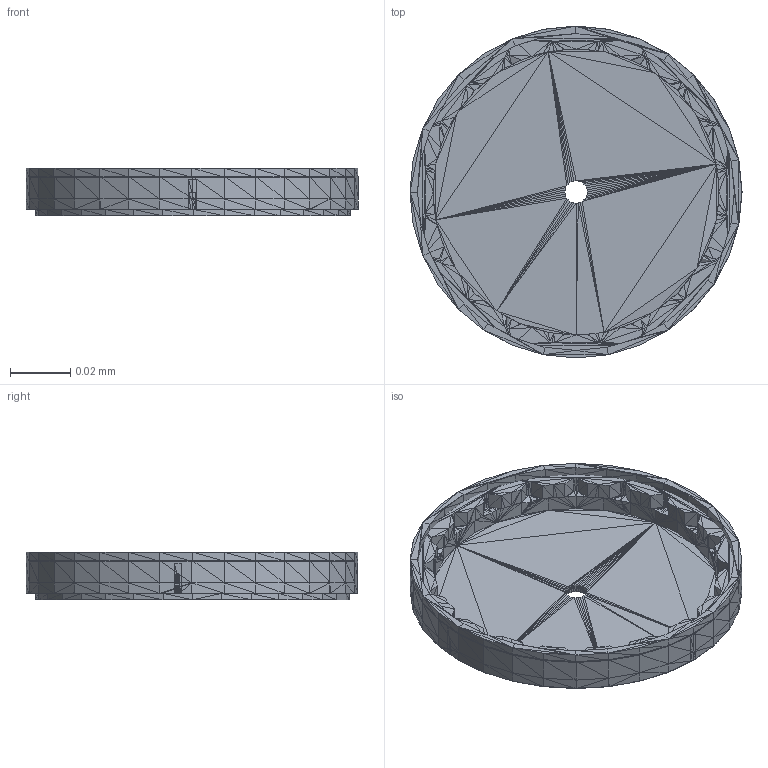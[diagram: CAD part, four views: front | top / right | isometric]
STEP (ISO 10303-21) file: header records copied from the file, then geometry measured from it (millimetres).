
FILE_DESCRIPTION((' Model'),'2;1');
FILE_NAME(' Shape Model','2026-05-29T17:25:29',(''),( ''),' ','','Unknown');
FILE_SCHEMA(('AUTOMOTIVE_DESIGN { 1 0 10303 214 1 1 1 1 }'));
Length unit declared in the file: millimetre
Products named in the file (12):  STEP translator 7.5 1;  STEP translator 7.5 1.1;  STEP translator 7.5 1.2;  STEP translator 7.5 1.3;  STEP translator 7.5 1.4;  STEP translator 7.5 1.5;  STEP translator 7.5 1.6;  STEP translator 7.5 1.7;  STEP translator 7.5 1.8;  STEP translator 7.5 1.9;  STEP translator 7.5 1.10;  STEP translator 7.5 1.11
Assembly tree (11 placements, depth 2):
   STEP translator 7.5 1
     STEP translator 7.5 1.1
     STEP translator 7.5 1.2
     STEP translator 7.5 1.3
     STEP translator 7.5 1.4
     STEP translator 7.5 1.5
     STEP translator 7.5 1.6
     STEP translator 7.5 1.7
     STEP translator 7.5 1.8
     STEP translator 7.5 1.9
     STEP translator 7.5 1.10
     STEP translator 7.5 1.11
Bounding box: 0.11 x 0.11 x 0.02 mm (x, y, z)
Surface area: 0 mm2 (no closed solid volume)
Topology: 0 solids, 11 shells, 2920 faces, 4431 edges, 1511 vertices
Faces by surface type: plane 2920
Entity records: 112165 total; most frequent: CARTESIAN_POINT 22330, DIRECTION 14970, LINE 9106, VECTOR 9106, ORIENTED_EDGE 8977, PCURVE 8977, DEFINITIONAL_REPRESENTATION 8977, EDGE_CURVE 4501
